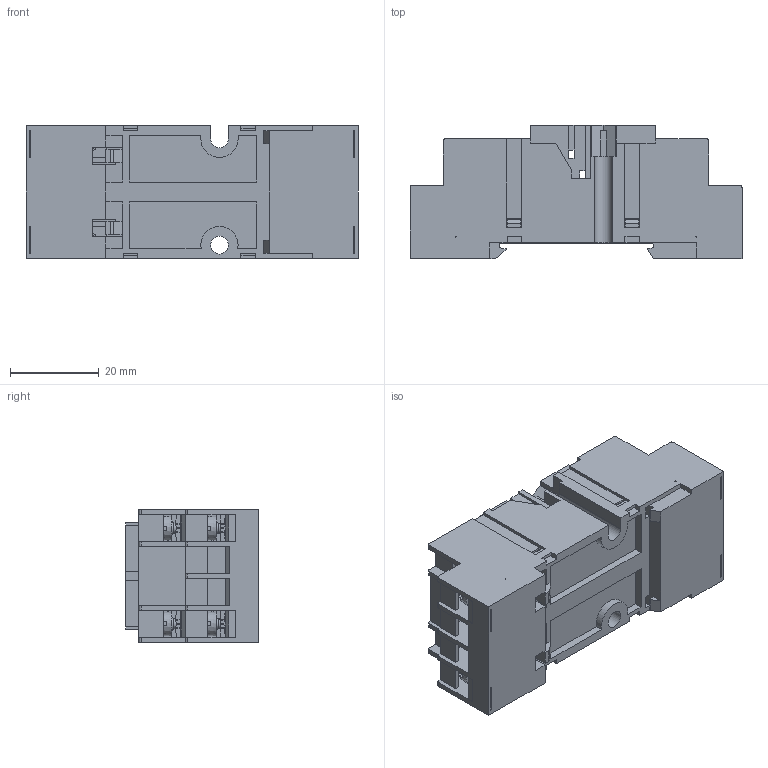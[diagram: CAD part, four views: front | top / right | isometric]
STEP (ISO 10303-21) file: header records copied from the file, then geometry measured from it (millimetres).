
FILE_DESCRIPTION(('STEP AP214'), '1');
FILE_NAME('Ðîçåòêà Ð30-002 (íà ïîêàç)', '2022-10-17T15:59:11', (''), (''), 'ASCON STEP Converter 1.6', 'ASCON Math Kernel', '');
FILE_SCHEMA(('AUTOMOTIVE_DESIGN { 1 0 10303 214 3 1 1}'));
Length unit declared in the file: millimetre
Bounding box: 74.9 x 30 x 30 mm (x, y, z)
Volume: 15145.8 mm3; surface area: 25513.1 mm2
Topology: 5 solids, 5 shells, 1991 faces, 5727 edges, 3712 vertices
Faces by surface type: plane 1441, cylinder 302, torus 112, bspline 80, cone 56
Full cylindrical faces by diameter (mm): 2.3 x8, 3 x17, 3.54 x8, 4 x1, 4.5 x14
Entity records: 94838 total; most frequent: CARTESIAN_POINT 28679, ORIENTED_EDGE 11278, DIRECTION 9115, EDGE_CURVE 5639, LINE 3879, VECTOR 3879, VERTEX_POINT 3712, AXIS2_PLACEMENT_3D 2618
